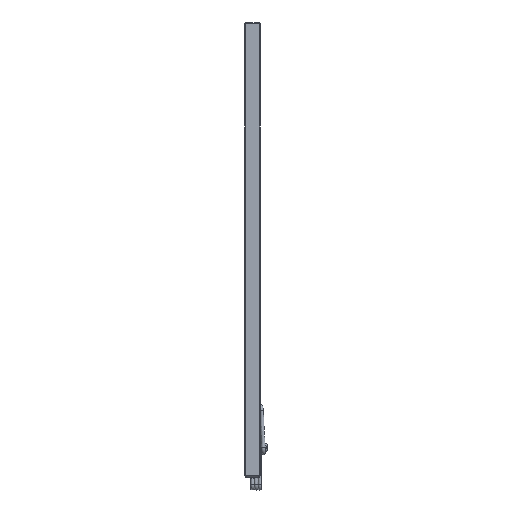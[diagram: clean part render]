
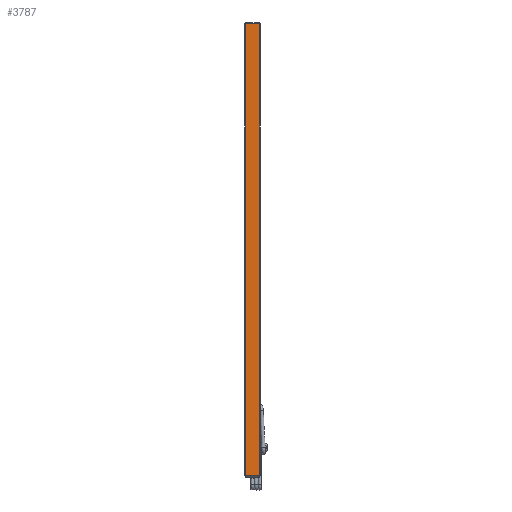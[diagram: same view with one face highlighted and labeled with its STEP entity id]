
A CAD part, front view. The second image highlights one B-rep face of the part: STEP entity #3787.
In plain terms, the highlighted planar face has unit normal (0, -1, 0).
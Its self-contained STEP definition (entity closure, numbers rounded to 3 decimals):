
#3509=CARTESIAN_POINT('',(18.421,0.,1219.2));
#3510=VERTEX_POINT('',#3509);
#3518=CARTESIAN_POINT('',(18.421,0.,0.0));
#3519=VERTEX_POINT('',#3518);
#3520=CARTESIAN_POINT('',(18.421,0.0,1219.2));
#3521=DIRECTION('',(0.0,0.0,-1.0));
#3522=VECTOR('',#3521,1219.2);
#3523=LINE('',#3520,#3522);
#3524=EDGE_CURVE('',#3510,#3519,#3523,.T.);
#3550=CARTESIAN_POINT('',(-18.421,0.,0.0));
#3551=VERTEX_POINT('',#3550);
#3552=CARTESIAN_POINT('',(-18.421,0.,0.0));
#3553=DIRECTION('',(1.0,0.0,0.0));
#3554=VECTOR('',#3553,36.842);
#3555=LINE('',#3552,#3554);
#3556=EDGE_CURVE('',#3551,#3519,#3555,.T.);
#3764=CARTESIAN_POINT('',(18.735,0.0,0.0));
#3765=DIRECTION('',(0.0,-1.0,0.0));
#3766=DIRECTION('',(0.0,0.0,-1.0));
#3767=AXIS2_PLACEMENT_3D('',#3764,#3765,#3766);
#3768=PLANE('',#3767);
#3769=ORIENTED_EDGE('',*,*,#3524,.F.);
#3770=CARTESIAN_POINT('',(-18.421,0.,1219.2));
#3771=VERTEX_POINT('',#3770);
#3772=CARTESIAN_POINT('',(18.421,0.,1219.2));
#3773=DIRECTION('',(-1.0,0.0,0.0));
#3774=VECTOR('',#3773,36.842);
#3775=LINE('',#3772,#3774);
#3776=EDGE_CURVE('',#3510,#3771,#3775,.T.);
#3777=ORIENTED_EDGE('',*,*,#3776,.T.);
#3778=CARTESIAN_POINT('',(-18.421,0.0,0.0));
#3779=DIRECTION('',(0.0,0.0,1.0));
#3780=VECTOR('',#3779,1219.2);
#3781=LINE('',#3778,#3780);
#3782=EDGE_CURVE('',#3551,#3771,#3781,.T.);
#3783=ORIENTED_EDGE('',*,*,#3782,.F.);
#3784=ORIENTED_EDGE('',*,*,#3556,.T.);
#3785=EDGE_LOOP('',(#3769,#3777,#3783,#3784));
#3786=FACE_OUTER_BOUND('',#3785,.T.);
#3787=ADVANCED_FACE('',(#3786),#3768,.T.);
